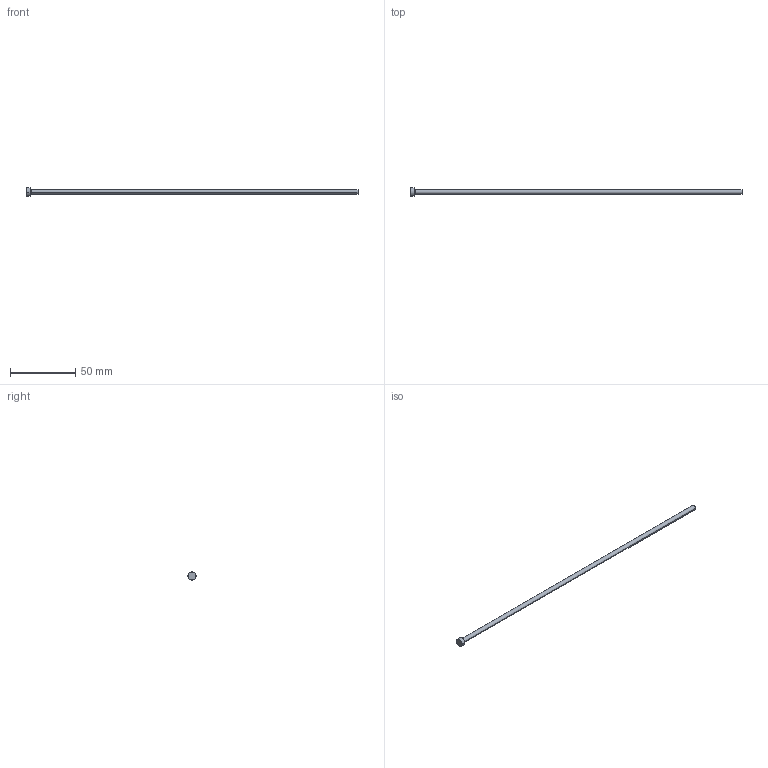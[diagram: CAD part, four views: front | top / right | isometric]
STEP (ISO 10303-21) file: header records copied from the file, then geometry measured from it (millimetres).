
FILE_DESCRIPTION (( 'STEP AP214' ), '1' );
FILE_NAME ('P10-10.STEP', '2020-03-11T17:37:22', ( '' ), ( '' ), 'SwSTEP 2.0', 'SolidWorks 2018', '' );
FILE_SCHEMA (( 'AUTOMOTIVE_DESIGN' ));
Length unit declared in the file: inch
Products named in the file (1): P10-10
Bounding box: 254 x 6.35 x 6.35 mm (x, y, z)
Volume: 2604.5 mm3; surface area: 2929.5 mm2
Topology: 1 solids, 1 shells, 13 faces, 24 edges, 14 vertices
Faces by surface type: cone 4, cylinder 4, plane 3, torus 2
Entity records: 366 total; most frequent: DIRECTION 68, CARTESIAN_POINT 52, ORIENTED_EDGE 48, AXIS2_PLACEMENT_3D 30, EDGE_CURVE 24, CIRCLE 16, EDGE_LOOP 14, VERTEX_POINT 14
